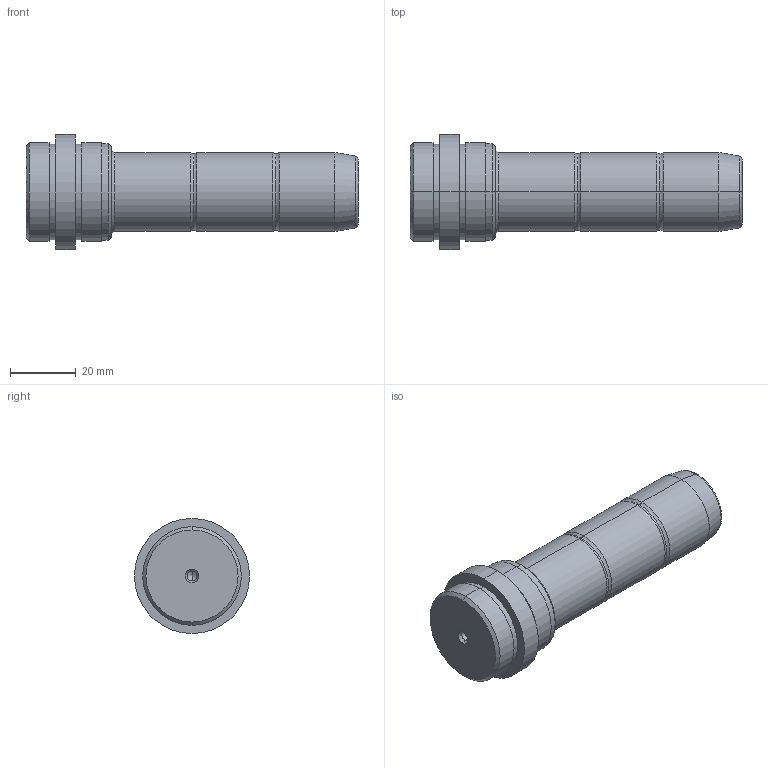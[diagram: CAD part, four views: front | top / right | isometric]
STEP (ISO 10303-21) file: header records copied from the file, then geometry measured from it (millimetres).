
FILE_DESCRIPTION( ( 'STEP AP203' ), '1' );
FILE_NAME( 'C:/Projects/D03 - 24x17x75.step', '2003-01-03T21:05:40', ( ' ' ), ( ' ' ), 'XStep 1.0', ' ', ' ' );
FILE_SCHEMA( ( 'CONFIG_CONTROL_DESIGN' ) );
Length unit declared in the file: metre
Products named in the file (1): 1
Bounding box: 101 x 35 x 35 mm (x, y, z)
Volume: 53180.5 mm3; surface area: 10104.8 mm2
Topology: 1 solids, 1 shells, 56 faces, 113 edges, 64 vertices
Faces by surface type: revolution 36, bspline 20
Entity records: 1691 total; most frequent: CARTESIAN_POINT 513, ORIENTED_EDGE 220, DIRECTION 218, EDGE_CURVE 110, AXIS2_PLACEMENT_3D 73, CIRCLE 72, EDGE_LOOP 64, VERTEX_POINT 64
